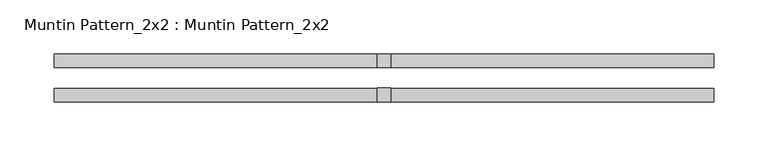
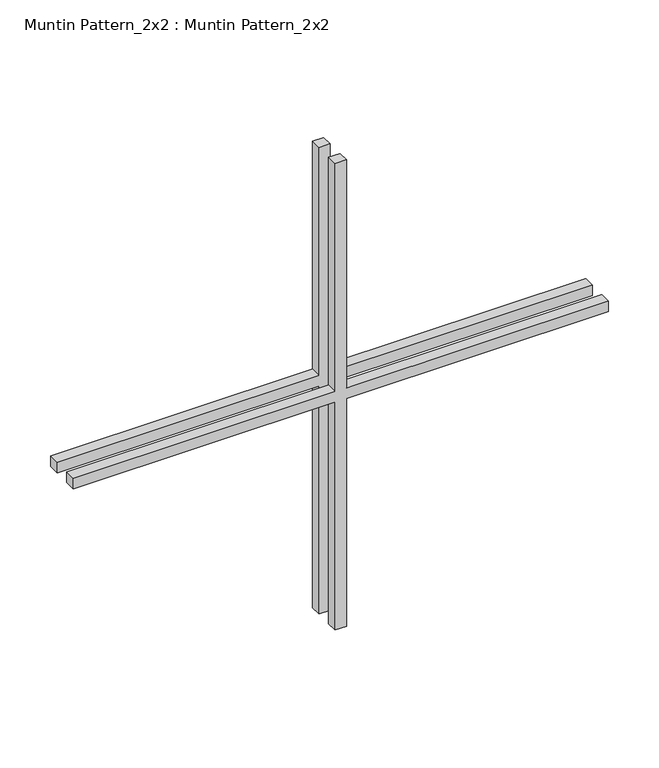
"""IFC4 building model written with IfcOpenShell, lengths in millimetres: proxy geometry, Muntin Pattern_2x2 : Muntin Pattern_2x2."""

from ifc_helpers import new_model, si_unit, frame, origin, place, context, project, spatial, polyline, outline, extrude, source, transform, mapped, element, save


def muntin_pattern_2x2_muntin_pattern_2x2_0d29cc6d(model_context):
    return source(origin(), model_context, "Body", "SweptSolid", [
        extrude(outline(polyline([(287.3375, -6.35), (287.3375, -304.8), (274.6375, -304.8), (274.6375, -6.35), (0.0, -6.35), (0.0, 6.35), (274.6375, 6.35), (274.6375, 304.8), (287.3375, 304.8), (287.3375, 6.35), (561.975, 6.35), (561.975, -6.35), (287.3375, -6.35)])), frame((0.0, 9.525, 0.0), z_axis=(0.0, 1.0, 0.0), x_axis=(0.0, 0.0, 1.0)), (0.0, 0.0, 1.0), 12.7),
        extrude(outline(polyline([(287.3375, -6.35), (287.3375, -304.8), (274.6375, -304.8), (274.6375, -6.35), (0.0, -6.35), (0.0, 6.35), (274.6375, 6.35), (274.6375, 304.8), (287.3375, 304.8), (287.3375, 6.35), (561.975, 6.35), (561.975, -6.35), (287.3375, -6.35)])), frame((0.0, -22.225, 0.0), z_axis=(0.0, 1.0, 0.0), x_axis=(0.0, 0.0, 1.0)), (0.0, 0.0, 1.0), 12.7),
    ])


if __name__ == "__main__":
    model = new_model("IFC4")
    model_context = context("Model", 3, world=origin())
    ifc_project = project(units=[si_unit("LENGTHUNIT", "METRE", prefix="MILLI")], contexts=[model_context])
    site = spatial("IfcSite", under=ifc_project)
    building = spatial("IfcBuilding", under=site)
    placement = place(None, origin())
    muntin_pattern_2x2_muntin_pattern_2x2_shape = muntin_pattern_2x2_muntin_pattern_2x2_0d29cc6d(model_context)
    element("IfcBuildingElementProxy", 1, Name="Muntin Pattern_2x2 : Muntin Pattern_2x2", ObjectType="Muntin Pattern_2x2 : Muntin Pattern_2x2", at=placement, inside=building, context=model_context, shape_type="MappedRepresentation", body=[
        mapped(muntin_pattern_2x2_muntin_pattern_2x2_shape, transform((0.0, 0.0, 0.0), x_axis=(1.0, 0.0, 0.0), y_axis=(0.0, 1.0, 0.0), z_axis=(0.0, 0.0, 1.0))),
    ])
    save(model, "model.ifc")
